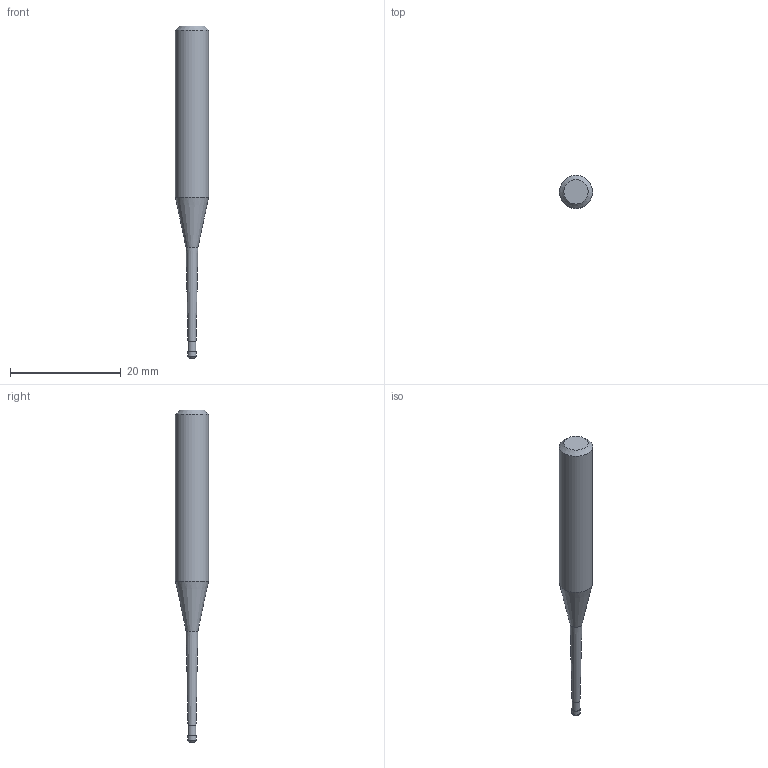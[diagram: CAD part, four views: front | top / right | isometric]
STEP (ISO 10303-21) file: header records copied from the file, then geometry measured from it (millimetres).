
FILE_DESCRIPTION((''),'2;1');
FILE_NAME('C:\Users\nsx150\AppData\Local\Temp\Mastercam 2021\YKS1SUSFZB\TEMP.step','2025-06-23T14:04:22',(''),(''),'STEP Write','Mastercam 2021 ... CNC Software, Inc.','');
FILE_SCHEMA(('AUTOMOTIVE_DESIGN'));
Length unit declared in the file: millimetre
Products named in the file (1): None
Bounding box: 6 x 6 x 60 mm (x, y, z)
Volume: 1044 mm3; surface area: 834.1 mm2
Topology: 2 solids, 2 shells, 11 faces, 16 edges, 9 vertices
Faces by surface type: plane 4, cylinder 3, cone 3, torus 1
Full cylindrical faces by diameter (mm): 1.44 x1, 1.5 x1, 6 x1
Entity records: 253 total; most frequent: DIRECTION 44, CARTESIAN_POINT 31, AXIS2_PLACEMENT_3D 22, ORIENTED_EDGE 18, EDGE_LOOP 18, STYLED_ITEM 14, ADVANCED_FACE 11, FACE_BOUND 11
